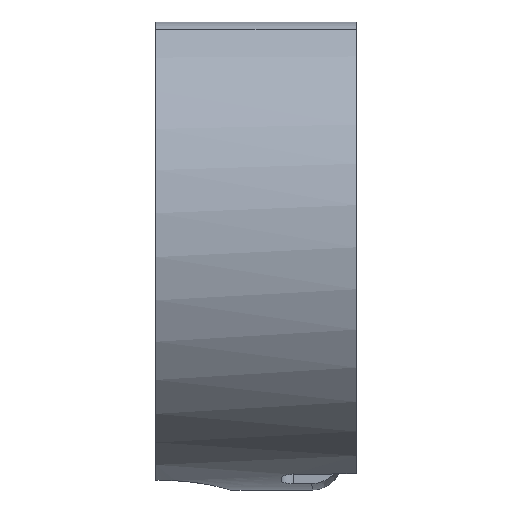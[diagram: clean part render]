
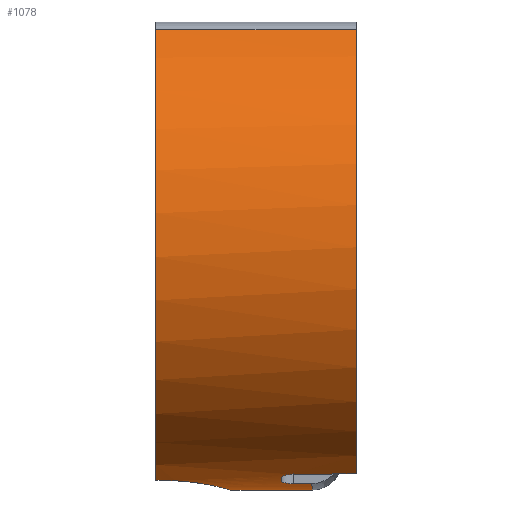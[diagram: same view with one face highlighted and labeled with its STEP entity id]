
A CAD part, left-side view. The second image highlights one B-rep face of the part: STEP entity #1078.
In plain terms, the highlighted cylindrical face has radius 10.1 mm (diameter 20.2 mm), a partial arc.
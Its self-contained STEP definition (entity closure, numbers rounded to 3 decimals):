
#17 = VERTEX_POINT ( 'NONE', #1590 ) ;
#47 = ORIENTED_EDGE ( 'NONE', *, *, #443, .T. ) ;
#72 = CARTESIAN_POINT ( 'NONE',  ( 0., 4., -10.1 ) ) ;
#74 = ORIENTED_EDGE ( 'NONE', *, *, #1591, .F. ) ;
#76 = CARTESIAN_POINT ( 'NONE',  ( -0.363, 1.018, -10.095 ) ) ;
#77 = DIRECTION ( 'NONE',  ( 0., -1., 0. ) ) ;
#82 = CARTESIAN_POINT ( 'NONE',  ( -2.187, 2.073, -9.861 ) ) ;
#88 = CARTESIAN_POINT ( 'NONE',  ( -1.693, 1.554, -9.96 ) ) ;
#93 = CARTESIAN_POINT ( 'NONE',  ( -3.538, -3.164, -9.46 ) ) ;
#96 = ORIENTED_EDGE ( 'NONE', *, *, #714, .T. ) ;
#101 = VERTEX_POINT ( 'NONE', #1294 ) ;
#117 = VERTEX_POINT ( 'NONE', #1140 ) ;
#133 = EDGE_CURVE ( 'NONE', #1188, #606, #899, .T. ) ;
#152 = CARTESIAN_POINT ( 'NONE',  ( -2.259, -1.5, -9.844 ) ) ;
#158 = EDGE_CURVE ( 'NONE', #811, #101, #813, .T. ) ;
#176 = CARTESIAN_POINT ( 'NONE',  ( -2.63, -1., -9.753 ) ) ;
#178 = CARTESIAN_POINT ( 'NONE',  ( -1.517, -2.242, -10.014 ) ) ;
#181 = B_SPLINE_CURVE_WITH_KNOTS ( 'NONE', 3,
 ( #1270, #176, #523, #779, #1407, #531 ),
 .UNSPECIFIED., .F., .F.,
 ( 4, 2, 4 ),
 ( 0., 0., 0.001 ),
 .UNSPECIFIED. ) ;
#185 = VERTEX_POINT ( 'NONE', #1067 ) ;
#190 = DIRECTION ( 'NONE',  ( 0., -1., 0. ) ) ;
#205 = CARTESIAN_POINT ( 'NONE',  ( 0., 4., 0. ) ) ;
#212 = DIRECTION ( 'NONE',  ( -1., 0., 0. ) ) ;
#214 = DIRECTION ( 'NONE',  ( 0., -1., 0. ) ) ;
#216 = ORIENTED_EDGE ( 'NONE', *, *, #1278, .T. ) ;
#232 = CARTESIAN_POINT ( 'NONE',  ( -3.509, -1.491, -9.471 ) ) ;
#233 = AXIS2_PLACEMENT_3D ( 'NONE', #205, #77, #580 ) ;
#247 = VERTEX_POINT ( 'NONE', #336 ) ;
#284 = LINE ( 'NONE', #72, #380 ) ;
#325 = CARTESIAN_POINT ( 'NONE',  ( -2.75, 3.75, -9.718 ) ) ;
#336 = CARTESIAN_POINT ( 'NONE',  ( -3.509, -1.491, -9.471 ) ) ;
#343 = CARTESIAN_POINT ( 'NONE',  ( -0.183, 1., -10.1 ) ) ;
#352 = CARTESIAN_POINT ( 'NONE',  ( -3.523, -2.328, -9.466 ) ) ;
#380 = VECTOR ( 'NONE', #190, 1000. ) ;
#386 = VERTEX_POINT ( 'NONE', #610 ) ;
#443 = EDGE_CURVE ( 'NONE', #117, #1233, #664, .T. ) ;
#457 = CARTESIAN_POINT ( 'NONE',  ( -2.75, 3.567, -9.718 ) ) ;
#504 = DIRECTION ( 'NONE',  ( 0., 1., 0. ) ) ;
#523 = CARTESIAN_POINT ( 'NONE',  ( -2.501, -1.052, -9.786 ) ) ;
#531 = CARTESIAN_POINT ( 'NONE',  ( -2.259, -1.5, -9.844 ) ) ;
#547 = AXIS2_PLACEMENT_3D ( 'NONE', #1357, #858, #1363 ) ;
#565 = CARTESIAN_POINT ( 'NONE',  ( 0., -4., 0. ) ) ;
#567 = CARTESIAN_POINT ( 'NONE',  ( -3.506, -1.357, -9.472 ) ) ;
#573 = FACE_OUTER_BOUND ( 'NONE', #1337, .T. ) ;
#578 = CARTESIAN_POINT ( 'NONE',  ( -0.892, 1.143, -10.062 ) ) ;
#580 = DIRECTION ( 'NONE',  ( 0., 0., -1. ) ) ;
#589 = LINE ( 'NONE', #1206, #1023 ) ;
#591 = ORIENTED_EDGE ( 'NONE', *, *, #1439, .F. ) ;
#605 = CARTESIAN_POINT ( 'NONE',  ( -3.552, -4., -9.455 ) ) ;
#606 = VERTEX_POINT ( 'NONE', #1261 ) ;
#610 = CARTESIAN_POINT ( 'NONE',  ( 0., 1., -10.1 ) ) ;
#621 = CIRCLE ( 'NONE', #547, 10.1 ) ;
#630 = EDGE_CURVE ( 'NONE', #185, #247, #918, .T. ) ;
#641 = ORIENTED_EDGE ( 'NONE', *, *, #630, .T. ) ;
#664 = LINE ( 'NONE', #152, #1053 ) ;
#683 = CARTESIAN_POINT ( 'NONE',  ( 0., -2.247, -10.1 ) ) ;
#705 = CARTESIAN_POINT ( 'NONE',  ( -0.719, 1.089, -10.076 ) ) ;
#714 = EDGE_CURVE ( 'NONE', #386, #1566, #284, .T. ) ;
#766 = EDGE_CURVE ( 'NONE', #247, #1188, #1342, .T. ) ;
#779 = CARTESIAN_POINT ( 'NONE',  ( -2.315, -1.235, -9.832 ) ) ;
#788 = EDGE_CURVE ( 'NONE', #17, #606, #589, .T. ) ;
#811 = VERTEX_POINT ( 'NONE', #1580 ) ;
#813 = LINE ( 'NONE', #1334, #1075 ) ;
#858 = DIRECTION ( 'NONE',  ( 0., 1., 0. ) ) ;
#899 = CIRCLE ( 'NONE', #1296, 10.1 ) ;
#905 = ORIENTED_EDGE ( 'NONE', *, *, #788, .F. ) ;
#916 = CARTESIAN_POINT ( 'NONE',  ( -0.761, -2.247, -10.1 ) ) ;
#918 = B_SPLINE_CURVE_WITH_KNOTS ( 'NONE', 3,
 ( #1529, #1558, #1185, #1279, #567, #1193 ),
 .UNSPECIFIED., .F., .F.,
 ( 4, 2, 4 ),
 ( 0., 0., 0.001 ),
 .UNSPECIFIED. ) ;
#940 = CARTESIAN_POINT ( 'NONE',  ( -2.732, 3.388, -9.724 ) ) ;
#941 = CYLINDRICAL_SURFACE ( 'NONE', #233, 10.1 ) ;
#942 = DIRECTION ( 'NONE',  ( 0., 1., 0. ) ) ;
#957 = CARTESIAN_POINT ( 'NONE',  ( -2.386, 2.371, -9.815 ) ) ;
#989 = CARTESIAN_POINT ( 'NONE',  ( -3.552, -4., -9.455 ) ) ;
#1023 = VECTOR ( 'NONE', #1597, 1000. ) ;
#1037 = CARTESIAN_POINT ( 'NONE',  ( -2.259, -2.232, -9.844 ) ) ;
#1053 = VECTOR ( 'NONE', #504, 1000. ) ;
#1066 = CARTESIAN_POINT ( 'NONE',  ( -2.071, 1.932, -9.886 ) ) ;
#1067 = CARTESIAN_POINT ( 'NONE',  ( -3.009, -1., -9.641 ) ) ;
#1075 = VECTOR ( 'NONE', #214, 1000. ) ;
#1078 = ADVANCED_FACE ( 'NONE', ( #573 ), #941, .T. ) ;
#1140 = CARTESIAN_POINT ( 'NONE',  ( -2.259, -2.232, -9.844 ) ) ;
#1157 =( BOUNDED_CURVE ( )  B_SPLINE_CURVE ( 3, ( #683, #916, #178, #1037 ),
 .UNSPECIFIED., .F., .T. ) 
 B_SPLINE_CURVE_WITH_KNOTS ( ( 4, 4 ),
 ( 0., 0.226 ),
 .UNSPECIFIED. ) 
 CURVE ( )  GEOMETRIC_REPRESENTATION_ITEM ( )  RATIONAL_B_SPLINE_CURVE ( ( 1., 0.996, 0.996, 1. ) ) 
 REPRESENTATION_ITEM ( '' )  );
#1185 = CARTESIAN_POINT ( 'NONE',  ( -3.261, -1.05, -9.559 ) ) ;
#1187 = EDGE_CURVE ( 'NONE', #811, #17, #621, .T. ) ;
#1188 = VERTEX_POINT ( 'NONE', #989 ) ;
#1193 = CARTESIAN_POINT ( 'NONE',  ( -3.509, -1.491, -9.471 ) ) ;
#1202 = CARTESIAN_POINT ( 'NONE',  ( 0., 1., -10.1 ) ) ;
#1206 = CARTESIAN_POINT ( 'NONE',  ( -5.761, 4., 8.296 ) ) ;
#1208 = B_SPLINE_CURVE_WITH_KNOTS ( 'NONE', 3,
 ( #1202, #343, #76, #705, #578, #1210, #88, #1066, #82, #957, #1465, #1561, #1567, #940, #457, #325 ),
 .UNSPECIFIED., .F., .F.,
 ( 4, 2, 2, 2, 2, 2, 2, 4 ),
 ( 0.004, 0.005, 0.005, 0.007, 0.007, 0.008, 0.008, 0.009 ),
 .UNSPECIFIED. ) ;
#1210 = CARTESIAN_POINT ( 'NONE',  ( -1.388, 1.349, -10.01 ) ) ;
#1219 = ORIENTED_EDGE ( 'NONE', *, *, #133, .T. ) ;
#1233 = VERTEX_POINT ( 'NONE', #1540 ) ;
#1241 = CIRCLE ( 'NONE', #1528, 10.1 ) ;
#1261 = CARTESIAN_POINT ( 'NONE',  ( -5.761, -4., 8.296 ) ) ;
#1268 = ORIENTED_EDGE ( 'NONE', *, *, #158, .T. ) ;
#1270 = CARTESIAN_POINT ( 'NONE',  ( -2.759, -1., -9.716 ) ) ;
#1278 = EDGE_CURVE ( 'NONE', #1566, #117, #1157, .T. ) ;
#1279 = CARTESIAN_POINT ( 'NONE',  ( -3.448, -1.228, -9.494 ) ) ;
#1294 = CARTESIAN_POINT ( 'NONE',  ( -2.75, 3.75, -9.718 ) ) ;
#1296 = AXIS2_PLACEMENT_3D ( 'NONE', #565, #942, #1563 ) ;
#1331 = CARTESIAN_POINT ( 'NONE',  ( 0., -1., 0. ) ) ;
#1334 = CARTESIAN_POINT ( 'NONE',  ( -2.75, 4., -9.718 ) ) ;
#1337 = EDGE_LOOP ( 'NONE', ( #591, #96, #216, #47, #74, #1398, #641, #1616, #1219, #905, #1484, #1268 ) ) ;
#1342 =( BOUNDED_CURVE ( )  B_SPLINE_CURVE ( 3, ( #232, #352, #93, #605 ),
 .UNSPECIFIED., .F., .F. ) 
 B_SPLINE_CURVE_WITH_KNOTS ( ( 4, 4 ),
 ( 5.067, 5.072 ),
 .UNSPECIFIED. ) 
 CURVE ( )  GEOMETRIC_REPRESENTATION_ITEM ( )  RATIONAL_B_SPLINE_CURVE ( ( 1., 1., 1., 1. ) ) 
 REPRESENTATION_ITEM ( '' )  );
#1346 = DIRECTION ( 'NONE',  ( 0., 1., 0. ) ) ;
#1357 = CARTESIAN_POINT ( 'NONE',  ( 0., 4., 0. ) ) ;
#1363 = DIRECTION ( 'NONE',  ( 0., 0., 1. ) ) ;
#1398 = ORIENTED_EDGE ( 'NONE', *, *, #1457, .T. ) ;
#1407 = CARTESIAN_POINT ( 'NONE',  ( -2.259, -1.366, -9.844 ) ) ;
#1439 = EDGE_CURVE ( 'NONE', #386, #101, #1208, .T. ) ;
#1457 = EDGE_CURVE ( 'NONE', #1537, #185, #1241, .T. ) ;
#1465 = CARTESIAN_POINT ( 'NONE',  ( -2.47, 2.528, -9.793 ) ) ;
#1470 = CARTESIAN_POINT ( 'NONE',  ( -2.759, -1., -9.716 ) ) ;
#1479 = CARTESIAN_POINT ( 'NONE',  ( 0., -2.247, -10.1 ) ) ;
#1484 = ORIENTED_EDGE ( 'NONE', *, *, #1187, .F. ) ;
#1528 = AXIS2_PLACEMENT_3D ( 'NONE', #1331, #1346, #212 ) ;
#1529 = CARTESIAN_POINT ( 'NONE',  ( -3.009, -1., -9.641 ) ) ;
#1537 = VERTEX_POINT ( 'NONE', #1470 ) ;
#1540 = CARTESIAN_POINT ( 'NONE',  ( -2.259, -1.5, -9.844 ) ) ;
#1558 = CARTESIAN_POINT ( 'NONE',  ( -3.137, -1., -9.601 ) ) ;
#1561 = CARTESIAN_POINT ( 'NONE',  ( -2.608, 2.861, -9.758 ) ) ;
#1563 = DIRECTION ( 'NONE',  ( 0., 0., 1. ) ) ;
#1566 = VERTEX_POINT ( 'NONE', #1479 ) ;
#1567 = CARTESIAN_POINT ( 'NONE',  ( -2.662, 3.036, -9.743 ) ) ;
#1580 = CARTESIAN_POINT ( 'NONE',  ( -2.75, 4., -9.718 ) ) ;
#1590 = CARTESIAN_POINT ( 'NONE',  ( -5.761, 4., 8.296 ) ) ;
#1591 = EDGE_CURVE ( 'NONE', #1537, #1233, #181, .T. ) ;
#1597 = DIRECTION ( 'NONE',  ( 0., -1., 0. ) ) ;
#1616 = ORIENTED_EDGE ( 'NONE', *, *, #766, .T. ) ;
